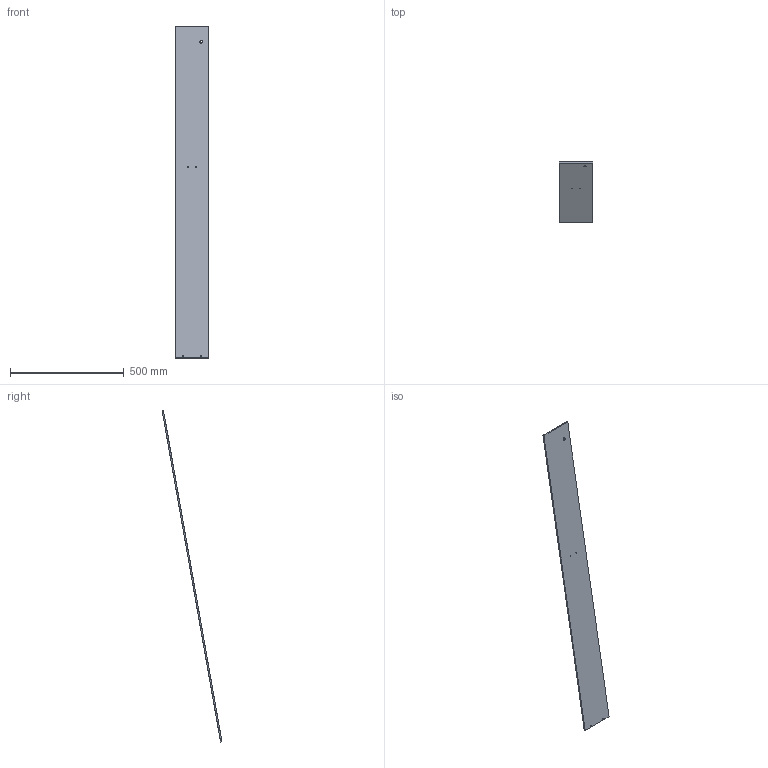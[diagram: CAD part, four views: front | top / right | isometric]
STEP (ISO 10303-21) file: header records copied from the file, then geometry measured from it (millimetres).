
FILE_DESCRIPTION(('golf model'),'2;1');
FILE_NAME('golf','',(''),(''),'golf_step_io','golf','');
FILE_SCHEMA(('AUTOMOTIVE_DESIGN { 1 0 10303 214 1 1 1 1 }'));
Length unit declared in the file: millimetre
Products named in the file (2): ASSEMBLY; gantry_frame.flange_front
Assembly tree (1 placements, depth 2):
  ASSEMBLY
    gantry_frame.flange_front
Bounding box: 148 x 262.56 x 1456.59 mm (x, y, z)
Volume: 1311069.7 mm3; surface area: 457210 mm2
Topology: 1 solids, 1 shells, 11 faces, 27 edges, 18 vertices
Faces by surface type: plane 6, cylinder 5
Full cylindrical faces by diameter (mm): 5 x2, 6.6 x2, 12.6 x1
Entity records: 360 total; most frequent: DIRECTION 58, CARTESIAN_POINT 53, ORIENTED_EDGE 44, EDGE_LOOP 26, FACE_BOUND 24, AXIS2_PLACEMENT_3D 23, EDGE_CURVE 22, VERTEX_POINT 18
